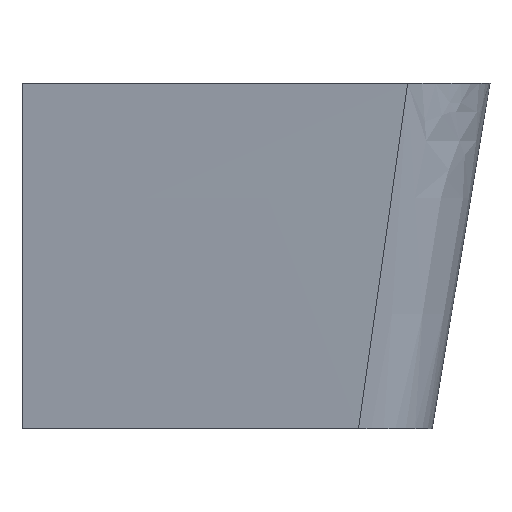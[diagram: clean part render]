
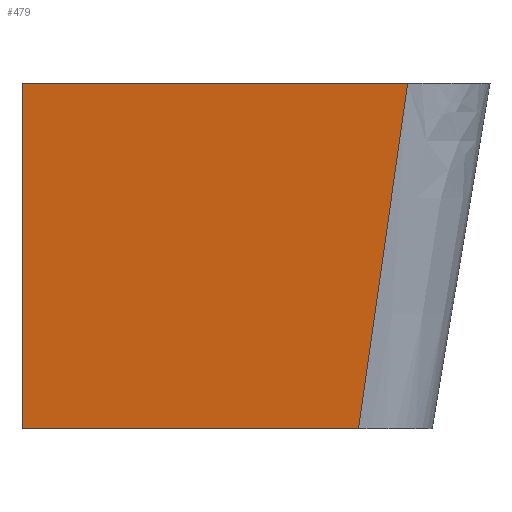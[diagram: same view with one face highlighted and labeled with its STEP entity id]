
A CAD part, left-side view. The second image highlights one B-rep face of the part: STEP entity #479.
In plain terms, the highlighted free-form (B-spline) face has degree [3, 3] with [4, 4] control points.
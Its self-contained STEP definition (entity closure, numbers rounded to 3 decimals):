
#67 = VERTEX_POINT('',#68);
#68 = CARTESIAN_POINT('',(-128.313,-388.296,
    0.));
#75 = EDGE_CURVE('',#67,#76,#78,.T.);
#76 = VERTEX_POINT('',#77);
#77 = CARTESIAN_POINT('',(-126.786,0.,
    0.));
#78 = LINE('',#79,#80);
#79 = CARTESIAN_POINT('',(-128.202,-359.975,
    0.));
#80 = VECTOR('',#81,1.);
#81 = DIRECTION('',(0.004,1.,0.
    ));
#100 = VERTEX_POINT('',#101);
#101 = CARTESIAN_POINT('',(-171.81,0.,
    398.253));
#107 = EDGE_CURVE('',#100,#108,#110,.T.);
#108 = VERTEX_POINT('',#109);
#109 = CARTESIAN_POINT('',(-171.81,-445.,398.253));
#110 = LINE('',#111,#112);
#111 = CARTESIAN_POINT('',(-171.81,-33.784,
    398.253));
#112 = VECTOR('',#113,1.);
#113 = DIRECTION('',(0.,-1.,0.));
#479 = ADVANCED_FACE('',(#480),#496,.T.);
#480 = FACE_BOUND('',#481,.T.);
#481 = EDGE_LOOP('',(#482,#483,#489,#490));
#482 = ORIENTED_EDGE('',*,*,#75,.F.);
#483 = ORIENTED_EDGE('',*,*,#484,.T.);
#484 = EDGE_CURVE('',#67,#108,#485,.T.);
#485 = LINE('',#486,#487);
#486 = CARTESIAN_POINT('',(-128.313,-388.296,
    0.));
#487 = VECTOR('',#488,1.);
#488 = DIRECTION('',(-0.108,-0.14,0.984));
#489 = ORIENTED_EDGE('',*,*,#107,.F.);
#490 = ORIENTED_EDGE('',*,*,#491,.T.);
#491 = EDGE_CURVE('',#100,#76,#492,.T.);
#492 = LINE('',#493,#494);
#493 = CARTESIAN_POINT('',(-171.81,0.,
    398.253));
#494 = VECTOR('',#495,1.);
#495 = DIRECTION('',(0.112,0.,-0.994)
  );
#496 = B_SPLINE_SURFACE_WITH_KNOTS('',3,3,(
    (#497,#498,#499,#500)
    ,(#501,#502,#503,#504)
    ,(#505,#506,#507,#508)
    ,(#509,#510,#511,#512
    )),.UNSPECIFIED.,.F.,.F.,.F.,(4,4),(4,4),(0.,1.),(0.,1.),
  .PIECEWISE_BEZIER_KNOTS.);
#497 = CARTESIAN_POINT('',(-171.81,-445.,398.253));
#498 = CARTESIAN_POINT('',(-157.311,-426.099,
    265.502));
#499 = CARTESIAN_POINT('',(-142.812,-407.197,
    132.751));
#500 = CARTESIAN_POINT('',(-128.313,-388.296,
    0.));
#501 = CARTESIAN_POINT('',(-171.81,-296.667,
    398.253));
#502 = CARTESIAN_POINT('',(-157.141,-284.066,
    265.502));
#503 = CARTESIAN_POINT('',(-142.473,-271.465,
    132.751));
#504 = CARTESIAN_POINT('',(-127.804,-258.864,
    0.));
#505 = CARTESIAN_POINT('',(-171.81,-148.333,
    398.253));
#506 = CARTESIAN_POINT('',(-156.971,-142.033,
    265.502));
#507 = CARTESIAN_POINT('',(-142.133,-135.732,
    132.751));
#508 = CARTESIAN_POINT('',(-127.295,-129.432,
    0.));
#509 = CARTESIAN_POINT('',(-171.81,0.,
    398.253));
#510 = CARTESIAN_POINT('',(-156.802,0.,
    265.502));
#511 = CARTESIAN_POINT('',(-141.794,0.,
    132.751));
#512 = CARTESIAN_POINT('',(-126.786,0.,
    0.));
